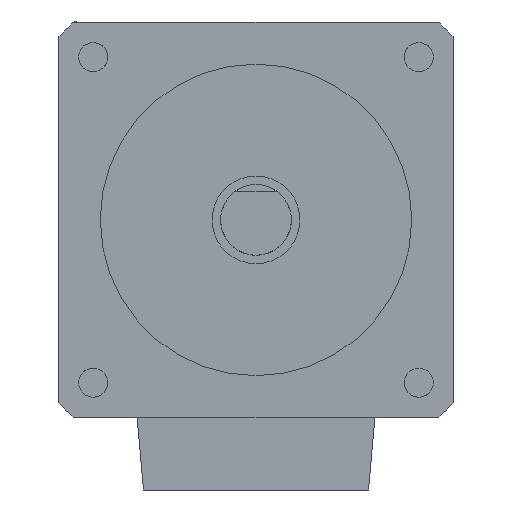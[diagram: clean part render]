
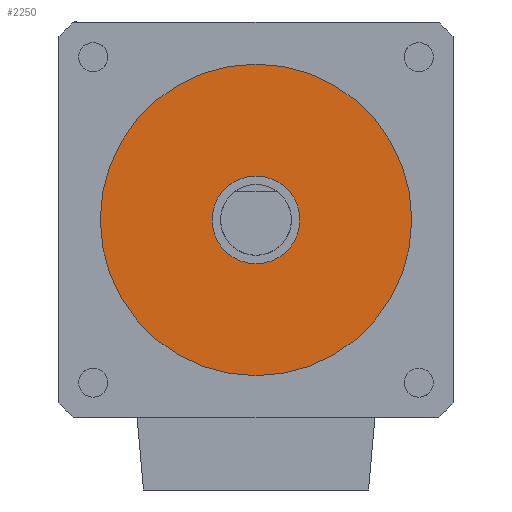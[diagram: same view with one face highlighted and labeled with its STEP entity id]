
A CAD part, front view. The second image highlights one B-rep face of the part: STEP entity #2250.
In plain terms, the highlighted planar face has unit normal (0, -1, 0) as drawn and (0, 1, 0) by its records, which use the part's own axes.
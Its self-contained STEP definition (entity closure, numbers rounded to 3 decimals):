
#44 = VERTEX_POINT ( 'NONE', #10983 ) ;
#276 = CARTESIAN_POINT ( 'NONE',  ( 0., 8.5, -3.1 ) ) ;
#674 = PLANE ( 'NONE',  #14107 ) ;
#923 = AXIS2_PLACEMENT_3D ( 'NONE', #6352, #12261, #11229 ) ;
#926 = ORIENTED_EDGE ( 'NONE', *, *, #1204, .T. ) ;
#1204 = EDGE_CURVE ( 'NONE', #44, #6840, #1259, .T. ) ;
#1259 = CIRCLE ( 'NONE', #14292, 11. ) ;
#1738 = AXIS2_PLACEMENT_3D ( 'NONE', #10347, #9232, #14054 ) ;
#2250 = ADVANCED_FACE ( 'NONE', ( #2348, #13216 ), #674, .T. ) ;
#2348 = FACE_BOUND ( 'NONE', #11127, .T. ) ;
#2835 = DIRECTION ( 'NONE',  ( 0., 1., 0. ) ) ;
#2899 = CARTESIAN_POINT ( 'NONE',  ( 0., 8.5, 0. ) ) ;
#3012 = DIRECTION ( 'NONE',  ( 0., 0., 1. ) ) ;
#3519 = CIRCLE ( 'NONE', #1738, 11. ) ;
#3524 = VERTEX_POINT ( 'NONE', #12928 ) ;
#3878 = VERTEX_POINT ( 'NONE', #276 ) ;
#4667 = EDGE_LOOP ( 'NONE', ( #15826, #926 ) ) ;
#6352 = CARTESIAN_POINT ( 'NONE',  ( 0., 8.5, 0. ) ) ;
#6840 = VERTEX_POINT ( 'NONE', #7489 ) ;
#7227 = DIRECTION ( 'NONE',  ( 0., 1., 0. ) ) ;
#7489 = CARTESIAN_POINT ( 'NONE',  ( 0., 8.5, -11. ) ) ;
#9042 = DIRECTION ( 'NONE',  ( 0., 0., 1. ) ) ;
#9058 = CIRCLE ( 'NONE', #13925, 3.1 ) ;
#9232 = DIRECTION ( 'NONE',  ( 0., 1., 0. ) ) ;
#9759 = EDGE_CURVE ( 'NONE', #3524, #3878, #9058, .T. ) ;
#10318 = DIRECTION ( 'NONE',  ( 0., 1., 0. ) ) ;
#10347 = CARTESIAN_POINT ( 'NONE',  ( 0., 8.5, 0. ) ) ;
#10517 = ORIENTED_EDGE ( 'NONE', *, *, #9759, .F. ) ;
#10983 = CARTESIAN_POINT ( 'NONE',  ( 0., 8.5, 11. ) ) ;
#11127 = EDGE_LOOP ( 'NONE', ( #10517, #13401 ) ) ;
#11229 = DIRECTION ( 'NONE',  ( 0., 0., 1. ) ) ;
#12261 = DIRECTION ( 'NONE',  ( 0., 1., 0. ) ) ;
#12928 = CARTESIAN_POINT ( 'NONE',  ( 0., 8.5, 3.1 ) ) ;
#12946 = CIRCLE ( 'NONE', #923, 3.1 ) ;
#13216 = FACE_OUTER_BOUND ( 'NONE', #4667, .T. ) ;
#13401 = ORIENTED_EDGE ( 'NONE', *, *, #13409, .F. ) ;
#13409 = EDGE_CURVE ( 'NONE', #3878, #3524, #12946, .T. ) ;
#13925 = AXIS2_PLACEMENT_3D ( 'NONE', #2899, #2835, #15227 ) ;
#13934 = CARTESIAN_POINT ( 'NONE',  ( 0., 8.5, 0. ) ) ;
#14054 = DIRECTION ( 'NONE',  ( 0., 0., 1. ) ) ;
#14107 = AXIS2_PLACEMENT_3D ( 'NONE', #15729, #7227, #3012 ) ;
#14292 = AXIS2_PLACEMENT_3D ( 'NONE', #13934, #10318, #9042 ) ;
#14388 = EDGE_CURVE ( 'NONE', #6840, #44, #3519, .T. ) ;
#15227 = DIRECTION ( 'NONE',  ( 0., 0., 1. ) ) ;
#15729 = CARTESIAN_POINT ( 'NONE',  ( 0., 8.5, 0. ) ) ;
#15826 = ORIENTED_EDGE ( 'NONE', *, *, #14388, .T. ) ;
